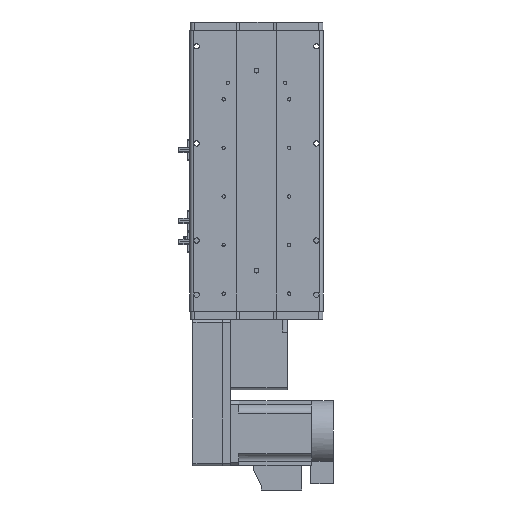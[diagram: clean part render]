
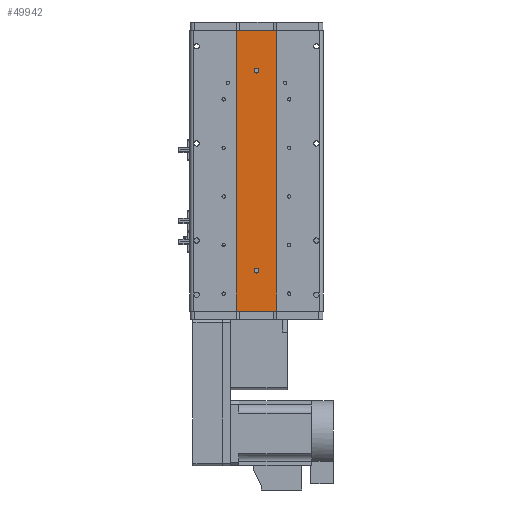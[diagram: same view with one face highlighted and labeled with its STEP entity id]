
A CAD part, front view. The second image highlights one B-rep face of the part: STEP entity #49942.
In plain terms, the highlighted planar face has unit normal (0, -1, 0).
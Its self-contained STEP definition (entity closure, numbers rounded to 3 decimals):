
#999 = EDGE_CURVE ( 'NONE', #32826, #36662, #21106, .T. ) ;
#1525 = VECTOR ( 'NONE', #60212, 1000. ) ;
#2637 = DIRECTION ( 'NONE',  ( 1., 0., 0. ) ) ;
#4318 = ORIENTED_EDGE ( 'NONE', *, *, #67688, .T. ) ;
#4670 = DIRECTION ( 'NONE',  ( 0., 1., 0. ) ) ;
#5210 = ORIENTED_EDGE ( 'NONE', *, *, #21468, .F. ) ;
#7204 = EDGE_LOOP ( 'NONE', ( #45005, #7819 ) ) ;
#7210 = DIRECTION ( 'NONE',  ( 0., 0., 1. ) ) ;
#7819 = ORIENTED_EDGE ( 'NONE', *, *, #30975, .T. ) ;
#8832 = VECTOR ( 'NONE', #31573, 1000. ) ;
#9661 = ORIENTED_EDGE ( 'NONE', *, *, #64548, .T. ) ;
#9778 = CARTESIAN_POINT ( 'NONE',  ( 25., 1., -173.5 ) ) ;
#9801 = CARTESIAN_POINT ( 'NONE',  ( 0., 1., -123.5 ) ) ;
#15335 = DIRECTION ( 'NONE',  ( 0., 0., 1. ) ) ;
#16600 = CARTESIAN_POINT ( 'NONE',  ( -25., 1., 173.5 ) ) ;
#17434 = FACE_BOUND ( 'NONE', #46369, .T. ) ;
#17538 = CARTESIAN_POINT ( 'NONE',  ( 0., 1., -126.5 ) ) ;
#17943 = CARTESIAN_POINT ( 'NONE',  ( 25., 1., 173.5 ) ) ;
#18259 = AXIS2_PLACEMENT_3D ( 'NONE', #37310, #4670, #42790 ) ;
#18291 = CARTESIAN_POINT ( 'NONE',  ( 0., 1., 123.5 ) ) ;
#20163 = ORIENTED_EDGE ( 'NONE', *, *, #999, .T. ) ;
#20214 = EDGE_CURVE ( 'NONE', #52307, #38252, #34786, .T. ) ;
#21106 = CIRCLE ( 'NONE', #46753, 3. ) ;
#21367 = EDGE_LOOP ( 'NONE', ( #38321, #57157, #5210, #9661 ) ) ;
#21468 = EDGE_CURVE ( 'NONE', #50337, #37728, #61049, .T. ) ;
#21762 = DIRECTION ( 'NONE',  ( 0., 1., 0. ) ) ;
#23343 = LINE ( 'NONE', #53243, #8832 ) ;
#23740 = DIRECTION ( 'NONE',  ( 0., 0., 1. ) ) ;
#30975 = EDGE_CURVE ( 'NONE', #37173, #63090, #48581, .T. ) ;
#31573 = DIRECTION ( 'NONE',  ( 0., 0., -1. ) ) ;
#31882 = FACE_OUTER_BOUND ( 'NONE', #21367, .T. ) ;
#32826 = VERTEX_POINT ( 'NONE', #70392 ) ;
#34390 = PLANE ( 'NONE',  #50446 ) ;
#34786 = LINE ( 'NONE', #64075, #47550 ) ;
#35211 = AXIS2_PLACEMENT_3D ( 'NONE', #54365, #21762, #59882 ) ;
#36662 = VERTEX_POINT ( 'NONE', #52502 ) ;
#37173 = VERTEX_POINT ( 'NONE', #63379 ) ;
#37310 = CARTESIAN_POINT ( 'NONE',  ( 0., 1., -123.5 ) ) ;
#37728 = VERTEX_POINT ( 'NONE', #46162 ) ;
#38252 = VERTEX_POINT ( 'NONE', #9778 ) ;
#38321 = ORIENTED_EDGE ( 'NONE', *, *, #20214, .T. ) ;
#39835 = DIRECTION ( 'NONE',  ( 0., 1., 0. ) ) ;
#41446 = CARTESIAN_POINT ( 'NONE',  ( -25., 1., -173.5 ) ) ;
#42752 = EDGE_CURVE ( 'NONE', #37728, #38252, #23343, .T. ) ;
#42790 = DIRECTION ( 'NONE',  ( 0., 0., 1. ) ) ;
#45005 = ORIENTED_EDGE ( 'NONE', *, *, #67572, .T. ) ;
#46162 = CARTESIAN_POINT ( 'NONE',  ( 25., 1., 173.5 ) ) ;
#46369 = EDGE_LOOP ( 'NONE', ( #4318, #20163 ) ) ;
#46753 = AXIS2_PLACEMENT_3D ( 'NONE', #18291, #56400, #23740 ) ;
#47550 = VECTOR ( 'NONE', #53111, 1000. ) ;
#47976 = DIRECTION ( 'NONE',  ( 0., 1., 0. ) ) ;
#48581 = CIRCLE ( 'NONE', #18259, 3. ) ;
#49942 = ADVANCED_FACE ( 'NONE', ( #59160, #17434, #31882 ), #34390, .F. ) ;
#50337 = VERTEX_POINT ( 'NONE', #57145 ) ;
#50446 = AXIS2_PLACEMENT_3D ( 'NONE', #17943, #39835, #7210 ) ;
#52307 = VERTEX_POINT ( 'NONE', #41446 ) ;
#52502 = CARTESIAN_POINT ( 'NONE',  ( 0., 1., 120.5 ) ) ;
#53111 = DIRECTION ( 'NONE',  ( 1., 0., 0. ) ) ;
#53243 = CARTESIAN_POINT ( 'NONE',  ( 25., 1., 173.5 ) ) ;
#54365 = CARTESIAN_POINT ( 'NONE',  ( 0., 1., 123.5 ) ) ;
#56400 = DIRECTION ( 'NONE',  ( 0., 1., 0. ) ) ;
#57145 = CARTESIAN_POINT ( 'NONE',  ( -25., 1., 173.5 ) ) ;
#57157 = ORIENTED_EDGE ( 'NONE', *, *, #42752, .F. ) ;
#57787 = LINE ( 'NONE', #16600, #1525 ) ;
#58451 = AXIS2_PLACEMENT_3D ( 'NONE', #9801, #47976, #15335 ) ;
#59160 = FACE_BOUND ( 'NONE', #7204, .T. ) ;
#59321 = VECTOR ( 'NONE', #2637, 1000. ) ;
#59882 = DIRECTION ( 'NONE',  ( 0., 0., 1. ) ) ;
#60212 = DIRECTION ( 'NONE',  ( 0., 0., -1. ) ) ;
#61049 = LINE ( 'NONE', #67943, #59321 ) ;
#63090 = VERTEX_POINT ( 'NONE', #17538 ) ;
#63379 = CARTESIAN_POINT ( 'NONE',  ( 0., 1., -120.5 ) ) ;
#64075 = CARTESIAN_POINT ( 'NONE',  ( 25., 1., -173.5 ) ) ;
#64548 = EDGE_CURVE ( 'NONE', #50337, #52307, #57787, .T. ) ;
#65826 = CIRCLE ( 'NONE', #58451, 3. ) ;
#67572 = EDGE_CURVE ( 'NONE', #63090, #37173, #65826, .T. ) ;
#67688 = EDGE_CURVE ( 'NONE', #36662, #32826, #70072, .T. ) ;
#67943 = CARTESIAN_POINT ( 'NONE',  ( 25., 1., 173.5 ) ) ;
#70072 = CIRCLE ( 'NONE', #35211, 3. ) ;
#70392 = CARTESIAN_POINT ( 'NONE',  ( 0., 1., 126.5 ) ) ;
